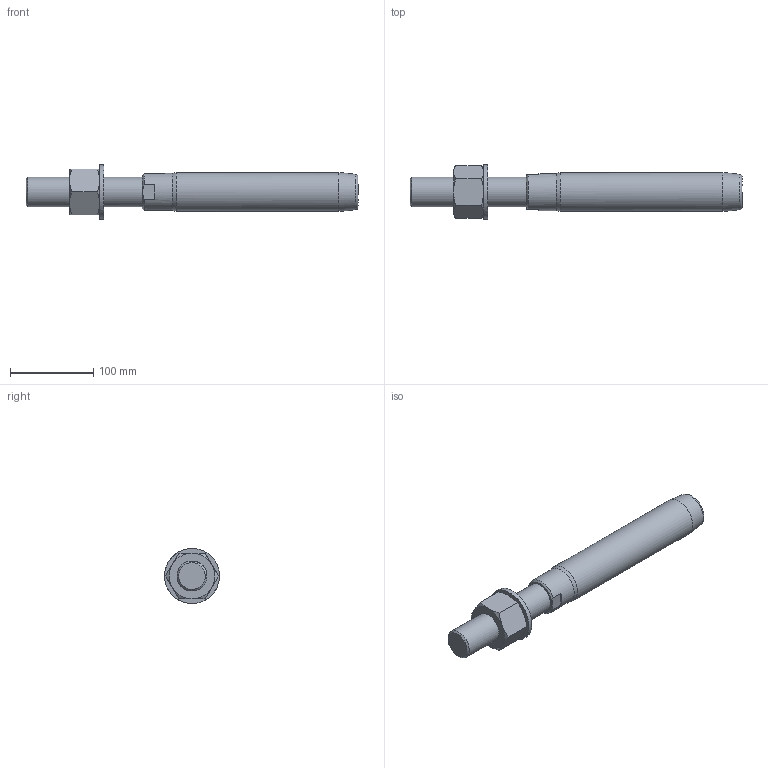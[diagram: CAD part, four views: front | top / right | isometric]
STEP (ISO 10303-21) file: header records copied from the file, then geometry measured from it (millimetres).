
FILE_DESCRIPTION(/* description */ (''),/* implementation_level */ '2;1');
FILE_NAME(/* name */ 'FLT 24_1,4462',/* time_stamp */ '2023-05-23T15:58:06+02:00',/* author */ (''),/* organization */ (''),/* preprocessor_version */ 'ST-DEVELOPER v16.5',/* originating_system */ 'Rhino 7.22',/* authorisation */ '');
FILE_SCHEMA (('CONFIG_CONTROL_DESIGN'));
Length unit declared in the file: millimetre
Products named in the file (1): Document
Bounding box: 399 x 65.96 x 65.97 mm (x, y, z)
Volume: 651545.7 mm3; surface area: 76067.9 mm2
Topology: 3 solids, 3 shells, 42 faces, 103 edges, 68 vertices
Faces by surface type: bspline 19, plane 17, cylinder 6
Full cylindrical faces by diameter (mm): 32.752 x1, 36 x1, 37 x1, 44.5 x1, 46.8 x1, 66 x1
Entity records: 1563 total; most frequent: CARTESIAN_POINT 861, ORIENTED_EDGE 206, EDGE_CURVE 103, VERTEX_POINT 68, EDGE_LOOP 47, ADVANCED_FACE 42, FACE_OUTER_BOUND 42, DIRECTION 27
